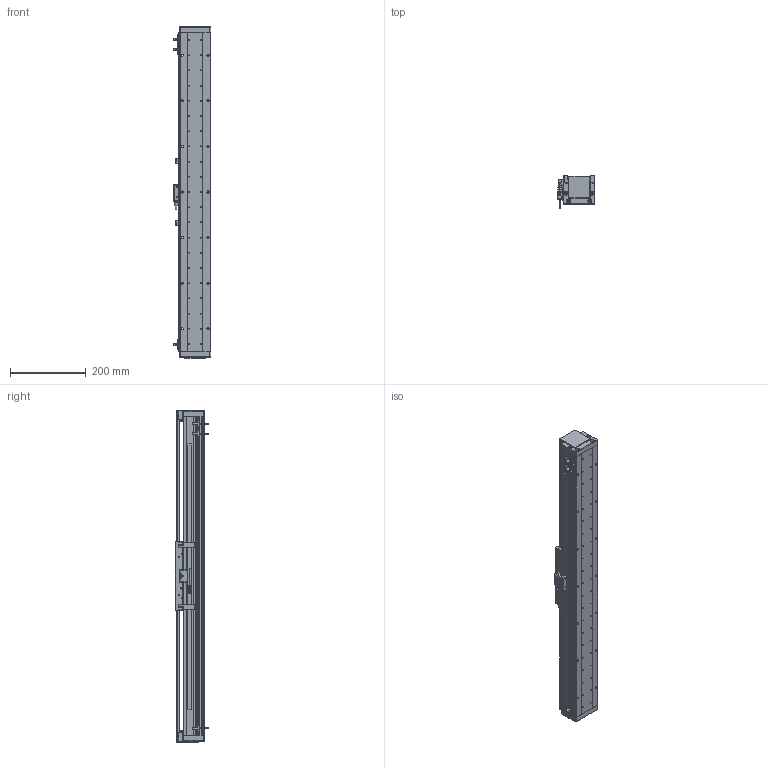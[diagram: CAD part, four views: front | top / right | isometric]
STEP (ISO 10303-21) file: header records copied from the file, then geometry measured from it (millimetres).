
FILE_DESCRIPTION (( 'STEP AP203' ), '1' );
FILE_NAME ('DA-A82-B2-T620-C010-0.2 眻盄萇儂.STEP', '2025-08-13T03:06:07', ( '' ), ( '' ), 'SwSTEP 2.0', 'SolidWorks 2019', '' );
FILE_SCHEMA (( 'CONFIG_CONTROL_DESIGN' ));
Length unit declared in the file: millimetre
Products named in the file (21): AU82-M 幗紩賑怢; DA-A60-GYP-DMT-00 光电感应片^DA-A82-B2-T-C010-0.2(默认); 葩璃 鞠褒情蹟譫 M3^DA-A82-B2-T-C010-0.2; 复件 纯铜油杯 6x6mm^AU82-M 滚珠滑台; 复件 复件 DA82-XJ-00 缓冲橡胶^DA-A82-B2-T-C010-0.2; 复件 DA95-B2-GT-00 滑块钢轨^AU82-M-00 一体化滑动台板; AU82-M-00 珨极趙賑雄怢啣; 复件 DA82-DG-H-N-00 端盖^DA-A82-B2-T-C010-0.2(默认_按加工_); 葩璃 BKM01-W040-TRL^DA-A82-B2-T-C010-0.2; 葩璃 DA82-T-002-00 裔啣^DA-A82-B2-T-C010-0.2; 葩璃 XD-U-02  棠掑喜^DA-A82-B2-T-C010-0.2; IU-AU82-L 菁釱絳寢; 葩璃 DMT-010 1米m 0.2M^DA-A82-B2-T-C010-0.2; DA-A82-B2-T620-C010-0.2 眻盄萇儂; 葩璃 DA82-B2-DP-00 結え^AU82-M 幗紩賑怢; ｸｴｼ BKM02-W040-C1-TP-DA-3.0 ﾖｱﾏﾟｵ扈巐ｯﾗﾓ^DA-A82-B2-T-C010-0.2; AU82-HT-M-00 賑雄怢啣; IU-AU82-L-00 菁釱(L840); 葩璃 PM-T45^DA-A82-B2-T-C010-0.2; 葩璃 DA60-DMT-DTJ-00 黍杅芛盓殤^DA-A82-B2-T-C010-0.2; 复件 DA95-GT-T-00 底座钢轨^IU-AU82-L 底座导轨
Assembly tree (36 placements, depth 4):
  DA-A82-B2-T620-C010-0.2 眻盄萇儂
    IU-AU82-L 菁釱絳寢
      IU-AU82-L-00 菁釱(L840)
      复件 DA95-GT-T-00 底座钢轨^IU-AU82-L 底座导轨  x2
    AU82-M 幗紩賑怢
      AU82-M-00 珨极趙賑雄怢啣
        AU82-HT-M-00 賑雄怢啣
        复件 DA95-B2-GT-00 滑块钢轨^AU82-M-00 一体化滑动台板  x4
      葩璃 DA82-B2-DP-00 結え^AU82-M 幗紩賑怢  x2
      复件 纯铜油杯 6x6mm^AU82-M 滚珠滑台  x2
    葩璃 DA60-DMT-DTJ-00 黍杅芛盓殤^DA-A82-B2-T-C010-0.2
    葩璃 DMT-010 1米m 0.2M^DA-A82-B2-T-C010-0.2
    DA-A60-GYP-DMT-00 光电感应片^DA-A82-B2-T-C010-0.2(默认)  x2
    ｸｴｼ BKM02-W040-C1-TP-DA-3.0 ﾖｱﾏﾟｵ扈巐ｯﾗﾓ^DA-A82-B2-T-C010-0.2
    复件 复件 DA82-XJ-00 缓冲橡胶^DA-A82-B2-T-C010-0.2  x2
    复件 DA82-DG-H-N-00 端盖^DA-A82-B2-T-C010-0.2(默认_按加工_)  x2
    葩璃 DA82-T-002-00 裔啣^DA-A82-B2-T-C010-0.2
    葩璃 BKM01-W040-TRL^DA-A82-B2-T-C010-0.2
    葩璃 PM-T45^DA-A82-B2-T-C010-0.2  x3
    葩璃 XD-U-02  棠掑喜^DA-A82-B2-T-C010-0.2
    葩璃 鞠褒情蹟譫 M3^DA-A82-B2-T-C010-0.2  x6
Bounding box: 98.95 x 87.2 x 874 mm (x, y, z)
Volume: 2907687.6 mm3; surface area: 831430.4 mm2
Topology: 40 solids, 64 shells, 2025 faces, 5278 edges, 3284 vertices
Faces by surface type: cylinder 923, plane 794, cone 252, torus 38, bspline 12, sphere 6
Entity records: 53359 total; most frequent: CARTESIAN_POINT 11637, DIRECTION 8414, ORIENTED_EDGE 7878, EDGE_CURVE 3939, AXIS2_PLACEMENT_3D 3174, VERTEX_POINT 2551, LINE 2066, VECTOR 2066
